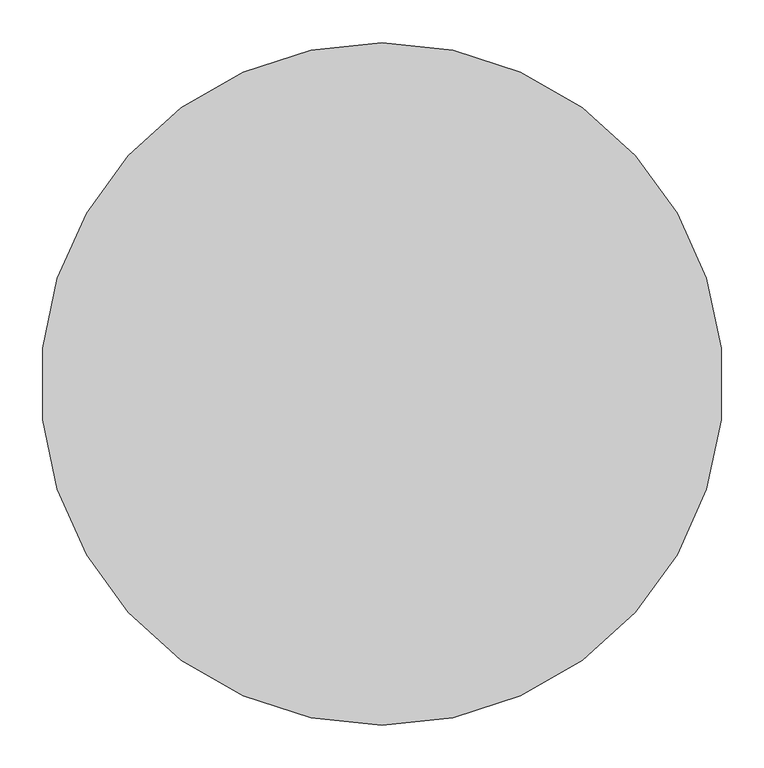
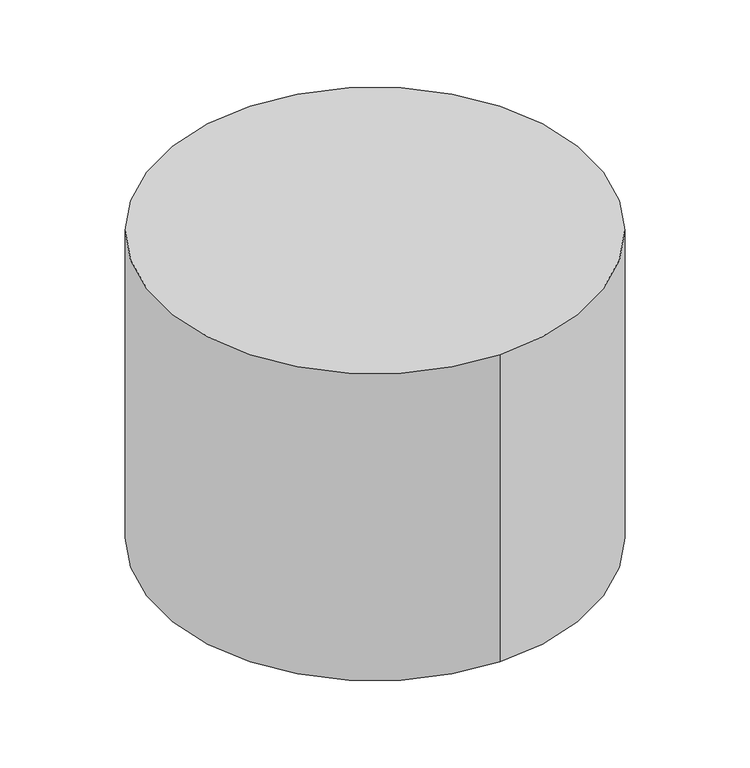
"""IFC4 building model written with IfcOpenShell, lengths in millimetres: proxy geometry, DMS-BWIC Family : BWIC_Circle."""

from ifc_helpers import new_model, si_unit, point, frame, origin, origin_2d, place, context, project, spatial, circle_curve, trimmed, segment, composite_curve, outline, extrude, source, transform, mapped, element, save


def generic_models_eefd1a19(model_context):
    return source(origin(), model_context, "Body", "SweptSolid", [
        extrude(outline(composite_curve([segment(trimmed(circle_curve(origin_2d(), 400.0), [point((0.0, 400.0))], [point((0.0, -400.0))], False, "CARTESIAN"), True, "CONTINUOUS"), segment(trimmed(circle_curve(origin_2d(), 400.0), [point((0.0, -400.0))], [point((0.0, 400.0))], False, "CARTESIAN"), True, "CONTINUOUS")], self_intersect=False)), frame((0.0, 0.0, -600.0), z_axis=(0.0, 0.0, 1.0), x_axis=(1.0, 0.0, 0.0)), (0.0, 0.0, 1.0), 600.0),
        extrude(outline(composite_curve([segment(trimmed(circle_curve(origin_2d(), 400.0), [point((0.0, 400.0))], [point((0.0, -400.0))], False, "CARTESIAN"), True, "CONTINUOUS"), segment(trimmed(circle_curve(origin_2d(), 400.0), [point((0.0, -400.0))], [point((0.0, 400.0))], False, "CARTESIAN"), True, "CONTINUOUS")], self_intersect=False)), frame((0.0, 0.0, -600.0), z_axis=(0.0, 0.0, 1.0), x_axis=(1.0, 0.0, 0.0)), (0.0, 0.0, 1.0), 600.0),
    ])


if __name__ == "__main__":
    model = new_model("IFC4")
    model_context = context("Model", 3, world=origin())
    ifc_project = project(units=[si_unit("LENGTHUNIT", "METRE", prefix="MILLI")], contexts=[model_context])
    site = spatial("IfcSite", under=ifc_project)
    building = spatial("IfcBuilding", under=site)
    placement = place(None, origin())
    generic_models_shape = generic_models_eefd1a19(model_context)
    element("IfcBuildingElementProxy", 1, Name="DMS-BWIC Family : BWIC_Circle", ObjectType="DMS-BWIC Family : BWIC_Circle", at=placement, inside=building, context=model_context, shape_type="MappedRepresentation", body=[
        mapped(generic_models_shape, transform((0.0, 0.0, 0.0), x_axis=(1.0, 0.0, 0.0), y_axis=(0.0, 1.0, 0.0), z_axis=(0.0, 0.0, 1.0))),
    ])
    save(model, "model.ifc")
